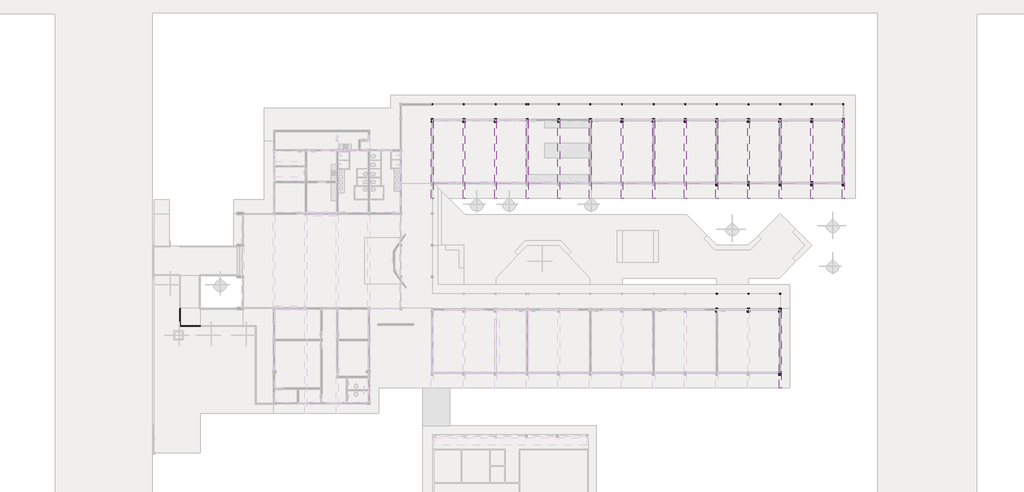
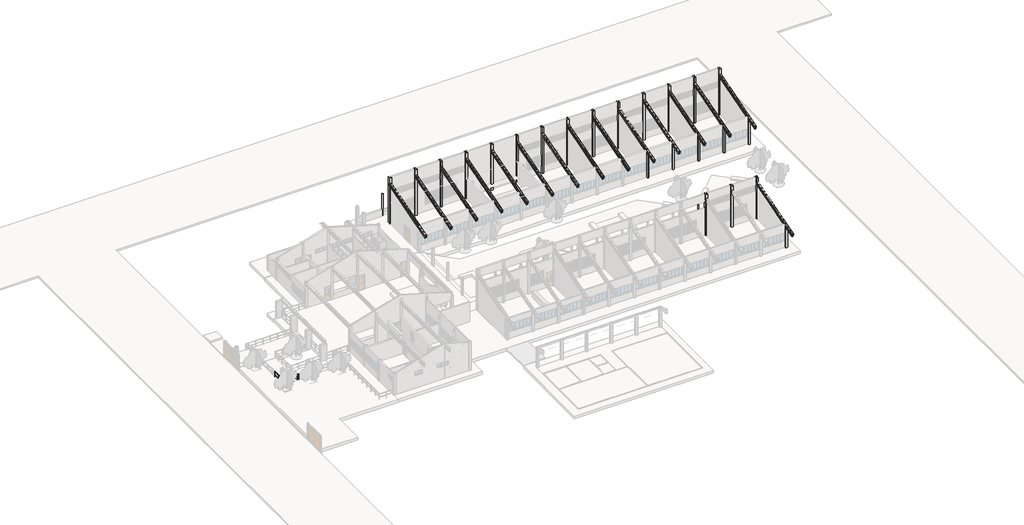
# One storey, part 7 of 12: 41 columns, 15 beams, 1 railing.
"""IFC4 building model written with IfcOpenShell, lengths in millimetres."""

from ifc_helpers import new_model, si_unit, point, frame, frame_2d, origin, origin_with_axes, place, context, project, spatial, polyline, circle_curve, ellipse_curve, trimmed, segment, composite_curve, outline, extrude, transform, mapped, element, save
from ifc_brep_helpers import plane_surface, cylinder_surface, advanced_brep
from components import beam_20x40_c263b07b, pilar_retangular_25_x_40_cm_2_ca77a530, pilar_retangular_25_x_40_cm_2_9367b00e, pilar_retangular_40_x_20_cm_dd6b6704

model = new_model("IFC4")

# Units and contexts
model_context = context("Model", 3, world=origin())
ifc_project = project(units=[si_unit("LENGTHUNIT", "METRE", prefix="MILLI")], contexts=[model_context])

# Site, building, storey
site = spatial("IfcSite", under=ifc_project)
building = spatial("IfcBuilding", under=site)
storey = spatial("IfcBuildingStorey", under=building, Name="Nível 1", Elevation=0.0)

# Beams
placement = place(None, origin())
beam_20x40_shape = beam_20x40_c263b07b(model_context)
element("IfcBeam", 1, ObjectType="Viga Treliçada - Igor Ramos.0001 : 20x40", at=placement, inside=storey, context=model_context, shape_type="MappedRepresentation", body=[
    mapped(beam_20x40_shape, transform((48301.4731397, 32332.4454796, 4792.2928974), x_axis=(0.0, 0.9587418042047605, 0.28427830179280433), y_axis=(-1.0, 0.0, 0.0), z_axis=(0.0, -0.2842783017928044, 0.9587418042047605))),
])
element("IfcBeam", 2, ObjectType="Viga Treliçada - Igor Ramos.0001 : 20x40", at=placement, inside=storey, context=model_context, shape_type="MappedRepresentation", body=[
    mapped(beam_20x40_shape, transform((44801.4731397, 32332.4454796, 4792.2928974), x_axis=(0.0, 0.9587418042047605, 0.28427830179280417), y_axis=(-1.0, 0.0, 0.0), z_axis=(0.0, -0.2842783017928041, 0.9587418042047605))),
])
element("IfcBeam", 3, ObjectType="Viga Treliçada - Igor Ramos.0001 : 20x40", at=placement, inside=storey, context=model_context, shape_type="MappedRepresentation", body=[
    mapped(beam_20x40_shape, transform((41301.4731397, 32332.4454796, 4792.2928974), x_axis=(0.0, 0.9587418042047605, 0.2842783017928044), y_axis=(-1.0000000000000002, 0.0, 0.0), z_axis=(0.0, -0.28427830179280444, 0.9587418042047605))),
])
element("IfcBeam", 4, ObjectType="Viga Treliçada - Igor Ramos.0001 : 20x40", at=placement, inside=storey, context=model_context, shape_type="MappedRepresentation", body=[
    mapped(beam_20x40_shape, transform((37801.4731397, 32332.4454796, 4792.2928974), x_axis=(0.0, 0.9587418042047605, 0.2842783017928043), y_axis=(-1.0, 0.0, 0.0), z_axis=(0.0, -0.28427830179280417, 0.9587418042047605))),
])
element("IfcBeam", 5, ObjectType="Viga Treliçada - Igor Ramos.0001 : 20x40", at=placement, inside=storey, context=model_context, shape_type="MappedRepresentation", body=[
    mapped(beam_20x40_shape, transform((34301.4731397, 32332.4454796, 4792.2928974), x_axis=(0.0, 0.9587418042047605, 0.2842783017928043), y_axis=(-1.0, 0.0, 0.0), z_axis=(0.0, -0.28427830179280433, 0.9587418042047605))),
])
element("IfcBeam", 6, ObjectType="Viga Treliçada - Igor Ramos.0001 : 20x40", at=placement, inside=storey, context=model_context, shape_type="MappedRepresentation", body=[
    mapped(beam_20x40_shape, transform((30801.4731397, 32332.4454796, 4792.2928974), x_axis=(0.0, 0.9587418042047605, 0.2842783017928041), y_axis=(-1.0, 0.0, 0.0), z_axis=(0.0, -0.28427830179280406, 0.9587418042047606))),
])
element("IfcBeam", 7, ObjectType="Viga Treliçada - Igor Ramos.0001 : 20x40", at=placement, inside=storey, context=model_context, shape_type="MappedRepresentation", body=[
    mapped(beam_20x40_shape, transform((27301.4731397, 32332.4454796, 4792.2928974), x_axis=(0.0, 0.9587418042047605, 0.28427830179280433), y_axis=(-1.0, 0.0, 0.0), z_axis=(0.0, -0.2842783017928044, 0.9587418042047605))),
])
element("IfcBeam", 8, ObjectType="Viga Treliçada - Igor Ramos.0001 : 20x40", at=placement, inside=storey, context=model_context, shape_type="MappedRepresentation", body=[
    mapped(beam_20x40_shape, transform((23801.4731397, 32332.4454796, 4792.2928974), x_axis=(0.0, 0.9587418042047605, 0.2842783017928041), y_axis=(-1.0, 0.0, 0.0), z_axis=(0.0, -0.28427830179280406, 0.9587418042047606))),
])
element("IfcBeam", 9, ObjectType="Viga Treliçada - Igor Ramos.0001 : 20x40", at=placement, inside=storey, context=model_context, shape_type="MappedRepresentation", body=[
    mapped(beam_20x40_shape, transform((20301.4731397, 32332.4454796, 4792.2928974), x_axis=(0.0, 0.9587418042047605, 0.28427830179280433), y_axis=(-1.0, 0.0, 0.0), z_axis=(0.0, -0.2842783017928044, 0.9587418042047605))),
])
element("IfcBeam", 10, ObjectType="Viga Treliçada - Igor Ramos.0001 : 20x40", at=placement, inside=storey, context=model_context, shape_type="MappedRepresentation", body=[
    mapped(beam_20x40_shape, transform((16801.4731397, 32332.4454796, 4792.2928974), x_axis=(0.0, 0.9587418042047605, 0.2842783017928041), y_axis=(-1.0, 0.0, 0.0), z_axis=(0.0, -0.28427830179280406, 0.9587418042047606))),
])
element("IfcBeam", 11, ObjectType="Viga Treliçada - Igor Ramos.0001 : 20x40", at=placement, inside=storey, context=model_context, shape_type="MappedRepresentation", body=[
    mapped(beam_20x40_shape, transform((13301.4731397, 32332.4454796, 4792.2928974), x_axis=(0.0, 0.9587418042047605, 0.28427830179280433), y_axis=(-1.0, 0.0, 0.0), z_axis=(0.0, -0.2842783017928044, 0.9587418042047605))),
])
element("IfcBeam", 12, ObjectType="Viga Treliçada - Igor Ramos.0001 : 20x40", at=placement, inside=storey, context=model_context, shape_type="MappedRepresentation", body=[
    mapped(beam_20x40_shape, transform((9801.4731397, 32332.4454796, 4792.2928974), x_axis=(0.0, 0.9587418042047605, 0.2842783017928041), y_axis=(-1.0, 0.0, 0.0), z_axis=(0.0, -0.28427830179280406, 0.9587418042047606))),
])
element("IfcBeam", 13, ObjectType="Viga Treliçada - Igor Ramos.0001 : 20x40", at=placement, inside=storey, context=model_context, shape_type="MappedRepresentation", body=[
    mapped(beam_20x40_shape, transform((6301.4731397, 32332.4454796, 4792.2928974), x_axis=(0.0, 0.9587418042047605, 0.28427830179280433), y_axis=(-1.0, 0.0, 0.0), z_axis=(0.0, -0.2842783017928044, 0.9587418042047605))),
])
element("IfcBeam", 14, ObjectType="Viga Treliçada - Igor Ramos.0001 : 20x40", at=placement, inside=storey, context=model_context, shape_type="MappedRepresentation", body=[
    mapped(beam_20x40_shape, transform((2801.4731397, 32332.4454796, 4792.2928974), x_axis=(0.0, 0.9587418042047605, 0.2842783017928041), y_axis=(-1.0, 0.0, 0.0), z_axis=(0.0, -0.28427830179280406, 0.9587418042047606))),
])
element("IfcBeam", 15, ObjectType="Viga Treliçada - Igor Ramos.0001 : 20x40", at=placement, inside=storey, context=model_context, shape_type="MappedRepresentation", body=[
    mapped(beam_20x40_shape, transform((41301.4731397, 11323.066338, 4262.2928974), x_axis=(0.0, 0.9587418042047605, 0.2842783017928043), y_axis=(-1.0, 0.0, 0.0), z_axis=(0.0, -0.2842783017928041, 0.9587418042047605))),
])

# Columns
element("IfcColumn", 16, ObjectType="Concrete-Round-Column : Pilar concreto cilíndrico", at=placement, inside=storey, context=model_context, shape_type="SweptSolid", body=[
    extrude(outline(composite_curve([segment(trimmed(circle_curve(frame_2d((2801.5285525, 38431.1797638)), 75.0), [point((2726.5285525, 38431.1797638))], [point((2876.5285525, 38431.1797638))], False, "CARTESIAN"), True, "CONTINUOUS"), segment(trimmed(circle_curve(frame_2d((2801.5285525, 38431.1797638)), 75.0), [point((2876.5285525, 38431.1797638))], [point((2726.5285525, 38431.1797638))], False, "CARTESIAN"), True, "CONTINUOUS")], self_intersect=False)), origin_with_axes(), (0.0, 0.0, 1.0), 3464.8789914),
])
element("IfcColumn", 17, ObjectType="Concrete-Round-Column : Pilar concreto cilíndrico", at=placement, inside=storey, context=model_context, shape_type="SweptSolid", body=[
    extrude(outline(composite_curve([segment(trimmed(circle_curve(frame_2d((6301.5285525, 38431.1797638)), 75.0), [point((6226.5285525, 38431.1797638))], [point((6376.5285525, 38431.1797638))], False, "CARTESIAN"), True, "CONTINUOUS"), segment(trimmed(circle_curve(frame_2d((6301.5285525, 38431.1797638)), 75.0), [point((6376.5285525, 38431.1797638))], [point((6226.5285525, 38431.1797638))], False, "CARTESIAN"), True, "CONTINUOUS")], self_intersect=False)), origin_with_axes(), (0.0, 0.0, 1.0), 3464.8789914),
])
element("IfcColumn", 18, ObjectType="Concrete-Round-Column : Pilar concreto cilíndrico", at=placement, inside=storey, context=model_context, shape_type="SweptSolid", body=[
    extrude(outline(composite_curve([segment(trimmed(circle_curve(frame_2d((9801.5285525, 38431.1797638)), 75.0), [point((9726.5285525, 38431.1797638))], [point((9876.5285525, 38431.1797638))], False, "CARTESIAN"), True, "CONTINUOUS"), segment(trimmed(circle_curve(frame_2d((9801.5285525, 38431.1797638)), 75.0), [point((9876.5285525, 38431.1797638))], [point((9726.5285525, 38431.1797638))], False, "CARTESIAN"), True, "CONTINUOUS")], self_intersect=False)), origin_with_axes(), (0.0, 0.0, 1.0), 3464.8789914),
])
element("IfcColumn", 19, ObjectType="Concrete-Round-Column : Pilar concreto cilíndrico", at=placement, inside=storey, context=model_context, shape_type="SweptSolid", body=[
    extrude(outline(composite_curve([segment(trimmed(circle_curve(frame_2d((13186.5285525, 38431.1797638)), 75.0), [point((13111.5285525, 38431.1797638))], [point((13261.5285525, 38431.1797638))], False, "CARTESIAN"), True, "CONTINUOUS"), segment(trimmed(circle_curve(frame_2d((13186.5285525, 38431.1797638)), 75.0), [point((13261.5285525, 38431.1797638))], [point((13111.5285525, 38431.1797638))], False, "CARTESIAN"), True, "CONTINUOUS")], self_intersect=False)), origin_with_axes(), (0.0, 0.0, 1.0), 3464.8789914),
])
element("IfcColumn", 20, ObjectType="Concrete-Round-Column : Pilar concreto cilíndrico", at=placement, inside=storey, context=model_context, shape_type="SweptSolid", body=[
    extrude(outline(composite_curve([segment(trimmed(circle_curve(frame_2d((13421.5285525, 38431.1797638)), 75.0), [point((13346.5285525, 38431.1797638))], [point((13496.5285525, 38431.1797638))], False, "CARTESIAN"), True, "CONTINUOUS"), segment(trimmed(circle_curve(frame_2d((13421.5285525, 38431.1797638)), 75.0), [point((13496.5285525, 38431.1797638))], [point((13346.5285525, 38431.1797638))], False, "CARTESIAN"), True, "CONTINUOUS")], self_intersect=False)), origin_with_axes(), (0.0, 0.0, 1.0), 3464.8789914),
])
element("IfcColumn", 21, ObjectType="Concrete-Round-Column : Pilar concreto cilíndrico", at=placement, inside=storey, context=model_context, shape_type="SweptSolid", body=[
    extrude(outline(composite_curve([segment(trimmed(circle_curve(frame_2d((16801.5285525, 38431.1797638)), 75.0), [point((16726.5285525, 38431.1797638))], [point((16876.5285525, 38431.1797638))], False, "CARTESIAN"), True, "CONTINUOUS"), segment(trimmed(circle_curve(frame_2d((16801.5285525, 38431.1797638)), 75.0), [point((16876.5285525, 38431.1797638))], [point((16726.5285525, 38431.1797638))], False, "CARTESIAN"), True, "CONTINUOUS")], self_intersect=False)), origin_with_axes(), (0.0, 0.0, 1.0), 3464.8789914),
])
element("IfcColumn", 22, ObjectType="Concrete-Round-Column : Pilar concreto cilíndrico", at=placement, inside=storey, context=model_context, shape_type="SweptSolid", body=[
    extrude(outline(composite_curve([segment(trimmed(circle_curve(frame_2d((20301.4731397, 38431.1797638)), 75.0), [point((20226.4731397, 38431.1797638))], [point((20376.4731397, 38431.1797638))], False, "CARTESIAN"), True, "CONTINUOUS"), segment(trimmed(circle_curve(frame_2d((20301.4731397, 38431.1797638)), 75.0), [point((20376.4731397, 38431.1797638))], [point((20226.4731397, 38431.1797638))], False, "CARTESIAN"), True, "CONTINUOUS")], self_intersect=False)), origin_with_axes(), (0.0, 0.0, 1.0), 3464.8789914),
])
element("IfcColumn", 23, ObjectType="Concrete-Round-Column : Pilar concreto cilíndrico", at=placement, inside=storey, context=model_context, shape_type="SweptSolid", body=[
    extrude(outline(composite_curve([segment(trimmed(circle_curve(frame_2d((23801.4731397, 38431.1797638)), 75.0), [point((23726.4731397, 38431.1797638))], [point((23876.4731397, 38431.1797638))], False, "CARTESIAN"), True, "CONTINUOUS"), segment(trimmed(circle_curve(frame_2d((23801.4731397, 38431.1797638)), 75.0), [point((23876.4731397, 38431.1797638))], [point((23726.4731397, 38431.1797638))], False, "CARTESIAN"), True, "CONTINUOUS")], self_intersect=False)), origin_with_axes(), (0.0, 0.0, 1.0), 3464.8789914),
])
element("IfcColumn", 24, ObjectType="Concrete-Round-Column : Pilar concreto cilíndrico", at=placement, inside=storey, context=model_context, shape_type="SweptSolid", body=[
    extrude(outline(composite_curve([segment(trimmed(circle_curve(frame_2d((27301.5285525, 38431.1797638)), 75.0), [point((27226.5285525, 38431.1797638))], [point((27376.5285525, 38431.1797638))], False, "CARTESIAN"), True, "CONTINUOUS"), segment(trimmed(circle_curve(frame_2d((27301.5285525, 38431.1797638)), 75.0), [point((27376.5285525, 38431.1797638))], [point((27226.5285525, 38431.1797638))], False, "CARTESIAN"), True, "CONTINUOUS")], self_intersect=False)), origin_with_axes(), (0.0, 0.0, 1.0), 3464.8789914),
])
element("IfcColumn", 25, ObjectType="Concrete-Round-Column : Pilar concreto cilíndrico", at=placement, inside=storey, context=model_context, shape_type="SweptSolid", body=[
    extrude(outline(composite_curve([segment(trimmed(circle_curve(frame_2d((30801.5285525, 38431.1797638)), 75.0), [point((30726.5285525, 38431.1797638))], [point((30876.5285525, 38431.1797638))], False, "CARTESIAN"), True, "CONTINUOUS"), segment(trimmed(circle_curve(frame_2d((30801.5285525, 38431.1797638)), 75.0), [point((30876.5285525, 38431.1797638))], [point((30726.5285525, 38431.1797638))], False, "CARTESIAN"), True, "CONTINUOUS")], self_intersect=False)), origin_with_axes(), (0.0, 0.0, 1.0), 3464.8789914),
])
element("IfcColumn", 26, ObjectType="Concrete-Round-Column : Pilar concreto cilíndrico", at=placement, inside=storey, context=model_context, shape_type="SweptSolid", body=[
    extrude(outline(composite_curve([segment(trimmed(circle_curve(frame_2d((34301.5285525, 38431.1797638)), 75.0), [point((34226.5285525, 38431.1797638))], [point((34376.5285525, 38431.1797638))], False, "CARTESIAN"), True, "CONTINUOUS"), segment(trimmed(circle_curve(frame_2d((34301.5285525, 38431.1797638)), 75.0), [point((34376.5285525, 38431.1797638))], [point((34226.5285525, 38431.1797638))], False, "CARTESIAN"), True, "CONTINUOUS")], self_intersect=False)), origin_with_axes(), (0.0, 0.0, 1.0), 3464.8789914),
])
element("IfcColumn", 27, ObjectType="Concrete-Round-Column : Pilar concreto cilíndrico", at=placement, inside=storey, context=model_context, shape_type="SweptSolid", body=[
    extrude(outline(composite_curve([segment(trimmed(circle_curve(frame_2d((37801.5285525, 38431.1797638)), 75.0), [point((37726.5285525, 38431.1797638))], [point((37876.5285525, 38431.1797638))], False, "CARTESIAN"), True, "CONTINUOUS"), segment(trimmed(circle_curve(frame_2d((37801.5285525, 38431.1797638)), 75.0), [point((37876.5285525, 38431.1797638))], [point((37726.5285525, 38431.1797638))], False, "CARTESIAN"), True, "CONTINUOUS")], self_intersect=False)), origin_with_axes(), (0.0, 0.0, 1.0), 3464.8789914),
])
element("IfcColumn", 28, ObjectType="Concrete-Round-Column : Pilar concreto cilíndrico", at=placement, inside=storey, context=model_context, shape_type="SweptSolid", body=[
    extrude(outline(composite_curve([segment(trimmed(circle_curve(frame_2d((41301.5285525, 38431.1797638)), 75.0), [point((41226.5285525, 38431.1797638))], [point((41376.5285525, 38431.1797638))], False, "CARTESIAN"), True, "CONTINUOUS"), segment(trimmed(circle_curve(frame_2d((41301.5285525, 38431.1797638)), 75.0), [point((41376.5285525, 38431.1797638))], [point((41226.5285525, 38431.1797638))], False, "CARTESIAN"), True, "CONTINUOUS")], self_intersect=False)), origin_with_axes(), (0.0, 0.0, 1.0), 3464.8789914),
])
element("IfcColumn", 29, ObjectType="Concrete-Round-Column : Pilar concreto cilíndrico", at=placement, inside=storey, context=model_context, shape_type="SweptSolid", body=[
    extrude(outline(composite_curve([segment(trimmed(circle_curve(frame_2d((44801.5285525, 38431.1797638)), 75.0), [point((44726.5285525, 38431.1797638))], [point((44876.5285525, 38431.1797638))], False, "CARTESIAN"), True, "CONTINUOUS"), segment(trimmed(circle_curve(frame_2d((44801.5285525, 38431.1797638)), 75.0), [point((44876.5285525, 38431.1797638))], [point((44726.5285525, 38431.1797638))], False, "CARTESIAN"), True, "CONTINUOUS")], self_intersect=False)), origin_with_axes(), (0.0, 0.0, 1.0), 3464.8789914),
])
element("IfcColumn", 30, ObjectType="Concrete-Round-Column : Pilar concreto cilíndrico", at=placement, inside=storey, context=model_context, shape_type="SweptSolid", body=[
    extrude(outline(composite_curve([segment(trimmed(circle_curve(frame_2d((48301.4731397, 38431.1797638)), 75.0), [point((48301.4731397, 38356.1797638))], [point((48301.4731397, 38506.1797638))], False, "CARTESIAN"), True, "CONTINUOUS"), segment(trimmed(circle_curve(frame_2d((48301.4731397, 38431.1797638)), 75.0), [point((48301.4731397, 38506.1797638))], [point((48301.4731397, 38356.1797638))], False, "CARTESIAN"), True, "CONTINUOUS")], self_intersect=False)), origin_with_axes(), (0.0, 0.0, 1.0), 3464.9159683),
])
element("IfcColumn", 31, ObjectType="Concrete-Round-Column : Pilar concreto cilíndrico", at=placement, inside=storey, context=model_context, shape_type="SweptSolid", body=[
    extrude(outline(composite_curve([segment(trimmed(circle_curve(frame_2d((41301.5285525, 17442.0058221)), 75.0), [point((41226.5285525, 17442.0058221))], [point((41376.5285525, 17442.0058221))], False, "CARTESIAN"), True, "CONTINUOUS"), segment(trimmed(circle_curve(frame_2d((41301.5285525, 17442.0058221)), 75.0), [point((41376.5285525, 17442.0058221))], [point((41226.5285525, 17442.0058221))], False, "CARTESIAN"), True, "CONTINUOUS")], self_intersect=False)), origin_with_axes(), (0.0, 0.0, 1.0), 3887.3),
])
element("IfcColumn", 32, ObjectType="Concrete-Round-Column : Pilar concreto cilíndrico", at=placement, inside=storey, context=model_context, shape_type="SweptSolid", body=[
    extrude(outline(composite_curve([segment(trimmed(circle_curve(frame_2d((37801.4731397, 17442.0058221)), 75.0), [point((37726.4731397, 17442.0058221))], [point((37876.4731397, 17442.0058221))], False, "CARTESIAN"), True, "CONTINUOUS"), segment(trimmed(circle_curve(frame_2d((37801.4731397, 17442.0058221)), 75.0), [point((37876.4731397, 17442.0058221))], [point((37726.4731397, 17442.0058221))], False, "CARTESIAN"), True, "CONTINUOUS")], self_intersect=False)), origin_with_axes(), (0.0, 0.0, 1.0), 3887.2541277),
])
element("IfcColumn", 33, ObjectType="Concrete-Round-Column : Pilar concreto cilíndrico", at=placement, inside=storey, context=model_context, shape_type="SweptSolid", body=[
    extrude(outline(composite_curve([segment(trimmed(circle_curve(frame_2d((34301.4731397, 17442.0058221)), 75.0), [point((34226.4731397, 17442.0058221))], [point((34376.4731397, 17442.0058221))], False, "CARTESIAN"), True, "CONTINUOUS"), segment(trimmed(circle_curve(frame_2d((34301.4731397, 17442.0058221)), 75.0), [point((34376.4731397, 17442.0058221))], [point((34226.4731397, 17442.0058221))], False, "CARTESIAN"), True, "CONTINUOUS")], self_intersect=False)), origin_with_axes(), (0.0, 0.0, 1.0), 3887.3),
])
element("IfcColumn", 34, ObjectType="Pilar retangular : 25 x 40 cm 2", at=placement, inside=storey, context=model_context, shape_type="SweptSolid", body=[
    extrude(outline(polyline([(41426.4731397, 8830.7093313), (41426.4731397, 8430.7093313), (41176.4731397, 8430.7093313), (41176.4731397, 8830.7093313), (41426.4731397, 8830.7093313)])), origin_with_axes(), (0.0, 0.0, 1.0), 3340.0),
])
pilar_retangular_25_x_40_cm_2_shape = pilar_retangular_25_x_40_cm_2_ca77a530(model_context)
element("IfcColumn", 35, ObjectType="Pilar retangular : 25 x 40 cm 2", at=placement, inside=storey, context=model_context, shape_type="MappedRepresentation", body=[
    mapped(pilar_retangular_25_x_40_cm_2_shape, transform((34301.4731397, 15621.8006221, 0.0), x_axis=(1.0, 0.0, 0.0), y_axis=(0.0, 1.0, 0.0), z_axis=(0.0, 0.0, 1.0))),
])
element("IfcColumn", 36, ObjectType="Pilar retangular : 25 x 40 cm 2", at=placement, inside=storey, context=model_context, shape_type="MappedRepresentation", body=[
    mapped(pilar_retangular_25_x_40_cm_2_shape, transform((37801.4731397, 15621.8006221, 0.0), x_axis=(1.0, 0.0, 0.0), y_axis=(0.0, 1.0, 0.0), z_axis=(0.0, 0.0, 1.0))),
])
element("IfcColumn", 37, ObjectType="Pilar retangular : 25 x 40 cm 2", at=placement, inside=storey, context=model_context, shape_type="MappedRepresentation", body=[
    mapped(pilar_retangular_25_x_40_cm_2_shape, transform((41301.4731397, 15621.8006221, 0.0), x_axis=(1.0, 0.0, 0.0), y_axis=(0.0, 1.0, 0.0), z_axis=(0.0, 0.0, 1.0))),
])
pilar_retangular_25_x_40_cm_2_2_shape = pilar_retangular_25_x_40_cm_2_9367b00e(model_context)
element("IfcColumn", 38, ObjectType="Pilar retangular : 25 x 40 cm 2", at=placement, inside=storey, context=model_context, shape_type="MappedRepresentation", body=[
    mapped(pilar_retangular_25_x_40_cm_2_2_shape, transform((2801.4731397, 36631.1797638, 0.0), x_axis=(1.0, 0.0, 0.0), y_axis=(0.0, 1.0, 0.0), z_axis=(0.0, 0.0, 1.0))),
])
element("IfcColumn", 39, ObjectType="Pilar retangular : 25 x 40 cm 2", at=placement, inside=storey, context=model_context, shape_type="MappedRepresentation", body=[
    mapped(pilar_retangular_25_x_40_cm_2_2_shape, transform((6301.4731397, 36631.1797638, 0.0), x_axis=(1.0, 0.0, 0.0), y_axis=(0.0, 1.0, 0.0), z_axis=(0.0, 0.0, 1.0))),
])
element("IfcColumn", 40, ObjectType="Pilar retangular : 25 x 40 cm 2", at=placement, inside=storey, context=model_context, shape_type="MappedRepresentation", body=[
    mapped(pilar_retangular_25_x_40_cm_2_2_shape, transform((9801.4731397, 36631.1797638, 0.0), x_axis=(1.0, 0.0, 0.0), y_axis=(0.0, 1.0, 0.0), z_axis=(0.0, 0.0, 1.0))),
])
element("IfcColumn", 41, ObjectType="Pilar retangular : 25 x 40 cm 2", at=placement, inside=storey, context=model_context, shape_type="MappedRepresentation", body=[
    mapped(pilar_retangular_25_x_40_cm_2_2_shape, transform((13301.4731397, 36631.1797638, 0.0), x_axis=(1.0, 0.0, 0.0), y_axis=(0.0, 1.0, 0.0), z_axis=(0.0, 0.0, 1.0))),
])
element("IfcColumn", 42, ObjectType="Pilar retangular : 25 x 40 cm 2", at=placement, inside=storey, context=model_context, shape_type="MappedRepresentation", body=[
    mapped(pilar_retangular_25_x_40_cm_2_2_shape, transform((16801.4731397, 36631.1797638, 0.0), x_axis=(1.0, 0.0, 0.0), y_axis=(0.0, 1.0, 0.0), z_axis=(0.0, 0.0, 1.0))),
])
element("IfcColumn", 43, ObjectType="Pilar retangular : 25 x 40 cm 2", at=placement, inside=storey, context=model_context, shape_type="MappedRepresentation", body=[
    mapped(pilar_retangular_25_x_40_cm_2_2_shape, transform((20301.4731397, 36631.1797638, 0.0), x_axis=(1.0, 0.0, 0.0), y_axis=(0.0, 1.0, 0.0), z_axis=(0.0, 0.0, 1.0))),
])
element("IfcColumn", 44, ObjectType="Pilar retangular : 25 x 40 cm 2", at=placement, inside=storey, context=model_context, shape_type="MappedRepresentation", body=[
    mapped(pilar_retangular_25_x_40_cm_2_2_shape, transform((23801.4731397, 36631.1797638, 0.0), x_axis=(1.0, 0.0, 0.0), y_axis=(0.0, 1.0, 0.0), z_axis=(0.0, 0.0, 1.0))),
])
element("IfcColumn", 45, ObjectType="Pilar retangular : 25 x 40 cm 2", at=placement, inside=storey, context=model_context, shape_type="MappedRepresentation", body=[
    mapped(pilar_retangular_25_x_40_cm_2_2_shape, transform((27301.4731397, 36631.1797638, 0.0), x_axis=(1.0, 0.0, 0.0), y_axis=(0.0, 1.0, 0.0), z_axis=(0.0, 0.0, 1.0))),
])
element("IfcColumn", 46, ObjectType="Pilar retangular : 25 x 40 cm 2", at=placement, inside=storey, context=model_context, shape_type="MappedRepresentation", body=[
    mapped(pilar_retangular_25_x_40_cm_2_2_shape, transform((30801.4731397, 36631.1797638, 0.0), x_axis=(1.0, 0.0, 0.0), y_axis=(0.0, 1.0, 0.0), z_axis=(0.0, 0.0, 1.0))),
])
element("IfcColumn", 47, ObjectType="Pilar retangular : 25 x 40 cm 2", at=placement, inside=storey, context=model_context, shape_type="MappedRepresentation", body=[
    mapped(pilar_retangular_25_x_40_cm_2_2_shape, transform((34301.4731397, 36631.1797638, 0.0), x_axis=(1.0, 0.0, 0.0), y_axis=(0.0, 1.0, 0.0), z_axis=(0.0, 0.0, 1.0))),
])
element("IfcColumn", 48, ObjectType="Pilar retangular : 25 x 40 cm 2", at=placement, inside=storey, context=model_context, shape_type="MappedRepresentation", body=[
    mapped(pilar_retangular_25_x_40_cm_2_2_shape, transform((37801.4731397, 36631.1797638, 0.0), x_axis=(1.0, 0.0, 0.0), y_axis=(0.0, 1.0, 0.0), z_axis=(0.0, 0.0, 1.0))),
])
element("IfcColumn", 49, ObjectType="Pilar retangular : 25 x 40 cm 2", at=placement, inside=storey, context=model_context, shape_type="MappedRepresentation", body=[
    mapped(pilar_retangular_25_x_40_cm_2_2_shape, transform((41301.4731397, 36631.1797638, 0.0), x_axis=(1.0, 0.0, 0.0), y_axis=(0.0, 1.0, 0.0), z_axis=(0.0, 0.0, 1.0))),
])
element("IfcColumn", 50, ObjectType="Pilar retangular : 25 x 40 cm 2", at=placement, inside=storey, context=model_context, shape_type="MappedRepresentation", body=[
    mapped(pilar_retangular_25_x_40_cm_2_2_shape, transform((44801.4731397, 36631.1797638, 0.0), x_axis=(1.0, 0.0, 0.0), y_axis=(0.0, 1.0, 0.0), z_axis=(0.0, 0.0, 1.0))),
])
element("IfcColumn", 51, ObjectType="Pilar retangular : 25 x 40 cm 2", at=placement, inside=storey, context=model_context, shape_type="MappedRepresentation", body=[
    mapped(pilar_retangular_25_x_40_cm_2_2_shape, transform((48301.4731397, 36631.1797638, 0.0), x_axis=(1.0, 0.0, 0.0), y_axis=(0.0, 1.0, 0.0), z_axis=(0.0, 0.0, 1.0))),
])
element("IfcColumn", 52, ObjectType="Pilar retangular : 40 x 20 cm", at=placement, inside=storey, context=model_context, shape_type="SweptSolid", body=[
    extrude(outline(polyline([(48401.4731397, 29431.1797638), (48201.4731397, 29431.1797638), (48201.4731397, 29831.1797638), (48401.4731397, 29831.1797638), (48401.4731397, 29431.1797638)])), origin_with_axes(), (0.0, 0.0, 1.0), 3723.4265078),
])
pilar_retangular_40_x_20_cm_shape = pilar_retangular_40_x_20_cm_dd6b6704(model_context)
element("IfcColumn", 53, ObjectType="Pilar retangular : 40 x 20 cm", at=placement, inside=storey, context=model_context, shape_type="MappedRepresentation", body=[
    mapped(pilar_retangular_40_x_20_cm_shape, transform((44801.4731397, 29631.1797638, 0.0), x_axis=(0.0, -1.0, 0.0), y_axis=(1.0, 0.0, 0.0), z_axis=(0.0, 0.0, 1.0))),
])
element("IfcColumn", 54, ObjectType="Pilar retangular : 40 x 20 cm", at=placement, inside=storey, context=model_context, shape_type="MappedRepresentation", body=[
    mapped(pilar_retangular_40_x_20_cm_shape, transform((41301.4731397, 29631.1797638, 0.0), x_axis=(0.0, -1.0, 0.0), y_axis=(1.0, 0.0, 0.0), z_axis=(0.0, 0.0, 1.0))),
])
element("IfcColumn", 55, ObjectType="Pilar retangular : 40 x 20 cm", at=placement, inside=storey, context=model_context, shape_type="MappedRepresentation", body=[
    mapped(pilar_retangular_40_x_20_cm_shape, transform((37801.4731397, 29631.1797638, 0.0), x_axis=(0.0, -1.0, 0.0), y_axis=(1.0, 0.0, 0.0), z_axis=(0.0, 0.0, 1.0))),
])
element("IfcColumn", 56, ObjectType="Pilar retangular : 40 x 20 cm", at=placement, inside=storey, context=model_context, shape_type="MappedRepresentation", body=[
    mapped(pilar_retangular_40_x_20_cm_shape, transform((34301.4731397, 29631.1797638, 0.0), x_axis=(0.0, -1.0, 0.0), y_axis=(1.0, 0.0, 0.0), z_axis=(0.0, 0.0, 1.0))),
])

# Railing
element("IfcRailing", 57, ObjectType="900 mm Tubulação", at=placement, inside=storey, context=model_context, shape_type="SolidModel", body=[
    advanced_brep(
    [(-25118.5268603, 15831.1862478, 1030.0), (-25148.5268603, 15831.1862478, 1030.0), (-25178.5268603, 15831.1862478, 1030.0), (-25158.5268603, 15831.1862478, 1050.0), (-25138.5268603, 15831.1862478, 1050.0), (-25118.5268603, 13911.1797638, 1030.0), (-25148.5268603, 13881.1797638, 1030.0), (-25178.5268603, 13851.1797638, 1030.0), (-25158.5268603, 13871.1797638, 1050.0), (-25138.5268603, 13891.1797638, 1050.0), (-22898.5268603, 13911.1797638, 1030.0), (-22898.5268603, 13891.1797638, 1050.0), (-22898.5268603, 13871.1797638, 1050.0), (-22898.5268603, 13851.1797638, 1030.0), (-22898.5268603, 13881.1797638, 1030.0)],
    [
        (0, 1),
        (1, 2),
        (2, 3, circle_curve(frame((-25158.5268603, 15831.1862478, 1030.0), z_axis=(0.0, 1.0, 0.0), x_axis=(1.0, 0.0, 0.0)), 20.0)),
        (3, 4),
        (4, 0, circle_curve(frame((-25138.5268603, 15831.1862478, 1030.0), z_axis=(0.0, 1.0, 0.0), x_axis=(1.0, 0.0, 0.0)), 20.0)),
        (0, 5),
        (5, 6),
        (6, 1),
        (6, 7),
        (7, 2),
        (7, 8, ellipse_curve(frame((-25158.5268603, 13871.1797638, 1030.0), z_axis=(-0.7071067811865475, 0.7071067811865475, 0.0), x_axis=(0.7071067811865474, 0.7071067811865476, 0.0)), 28.2842712, 20.0)),
        (8, 3),
        (8, 9),
        (9, 4),
        (9, 5, ellipse_curve(frame((-25138.5268603, 13891.1797638, 1030.0), z_axis=(-0.7071067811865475, 0.7071067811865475, 0.0), x_axis=(0.7071067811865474, 0.7071067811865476, 0.0)), 28.2842712, 20.0)),
        (10, 11, circle_curve(frame((-22898.5268603, 13891.1797638, 1030.0), z_axis=(1.0, 0.0, 0.0), x_axis=(0.0, 1.0, 0.0)), 20.0)),
        (11, 12),
        (12, 13, circle_curve(frame((-22898.5268603, 13871.1797638, 1030.0), z_axis=(1.0, 0.0, 0.0), x_axis=(0.0, 1.0, 0.0)), 20.0)),
        (13, 14),
        (14, 10),
        (5, 10),
        (14, 6),
        (13, 7),
        (12, 8),
        (11, 9),
    ],
    [
        plane_surface(frame((-25148.5268603, 15831.1862478, 1050.0), z_axis=(0.0, 1.0, 0.0), x_axis=(0.0, 0.0, -1.0))),
        plane_surface(frame((-25118.5268603, 15831.1862478, 1030.0), z_axis=(0.0, 0.0, -1.0), x_axis=(0.0, -1.0, 0.0))),
        plane_surface(frame((-25148.5268603, 15831.1862478, 1030.0), z_axis=(0.0, 0.0, -1.0), x_axis=(0.0, -1.0, 0.0))),
        cylinder_surface(frame((-25158.5268603, 15831.1862478, 1030.0), z_axis=(0.0, 1.0, 0.0), x_axis=(1.0, 0.0, 0.0)), 20.0),
        plane_surface(frame((-25158.5268603, 15831.1862478, 1050.0), z_axis=(0.0, 0.0, 1.0), x_axis=(0.0, -1.0, 0.0))),
        cylinder_surface(frame((-25138.5268603, 15831.1862478, 1030.0), z_axis=(0.0, 1.0, 0.0), x_axis=(1.0, 0.0, 0.0)), 20.0),
        plane_surface(frame((-22898.5268603, 13881.1797638, 1050.0), z_axis=(1.0, 0.0, 0.0), x_axis=(0.0, 1.0, 0.0))),
        plane_surface(frame((-25118.5268603, 13911.1797638, 1030.0), z_axis=(0.0, 0.0, -1.0), x_axis=(1.0, 0.0, 0.0))),
        plane_surface(frame((-25148.5268603, 13881.1797638, 1030.0), z_axis=(0.0, 0.0, -1.0), x_axis=(1.0, 0.0, 0.0))),
        cylinder_surface(frame((-25148.5268603, 13871.1797638, 1030.0), z_axis=(-1.0, 0.0, 0.0), x_axis=(0.0, 1.0, 0.0)), 20.0),
        plane_surface(frame((-25158.5268603, 13871.1797638, 1050.0), z_axis=(0.0, 0.0, 1.0), x_axis=(1.0, 0.0, 0.0))),
        cylinder_surface(frame((-25148.5268603, 13891.1797638, 1030.0), z_axis=(-1.0, 0.0, 0.0), x_axis=(0.0, 1.0, 0.0)), 20.0),
    ],
    [
        (0, [[1, 2, 3, 4, 5]]),
        (1, [[-1, 6, 7, 8]]),
        (2, [[-2, -8, 9, 10]]),
        (3, [[-3, -10, 11, 12]]),
        (4, [[-4, -12, 13, 14]]),
        (5, [[-5, -14, 15, -6]]),
        (6, [[16, 17, 18, 19, 20]]),
        (7, [[-7, 21, -20, 22]]),
        (8, [[-9, -22, -19, 23]]),
        (9, [[-11, -23, -18, 24]]),
        (10, [[-13, -24, -17, 25]]),
        (11, [[-15, -25, -16, -21]]),
    ],
),
    extrude(outline(composite_curve([segment(trimmed(circle_curve(frame_2d((1035.0, -25148.5268603)), 15.0), [point((1035.0, -25133.5268603))], [point((1035.0, -25163.5268603))], False, "CARTESIAN"), True, "CONTINUOUS"), segment(trimmed(circle_curve(frame_2d((1035.0, -25148.5268603)), 15.0), [point((1035.0, -25163.5268603))], [point((1035.0, -25133.5268603))], False, "CARTESIAN"), True, "CONTINUOUS")], self_intersect=False)), frame((0.0, 13896.1797638, 0.0), z_axis=(0.0, 1.0, 0.0), x_axis=(0.0, 0.0, 1.0)), (0.0, 0.0, 1.0), 1935.006484),
    extrude(outline(composite_curve([segment(trimmed(circle_curve(frame_2d((13881.1797638, 1035.0)), 15.0), [point((13896.1797638, 1035.0))], [point((13866.1797638, 1035.0))], False, "CARTESIAN"), True, "CONTINUOUS"), segment(trimmed(circle_curve(frame_2d((13881.1797638, 1035.0)), 15.0), [point((13866.1797638, 1035.0))], [point((13896.1797638, 1035.0))], False, "CARTESIAN"), True, "CONTINUOUS")], self_intersect=False)), frame((-25163.5268603, 0.0, 0.0), z_axis=(1.0, 0.0, 0.0), x_axis=(0.0, 1.0, 0.0)), (0.0, 0.0, 1.0), 2265.0),
    extrude(outline(composite_curve([segment(trimmed(circle_curve(frame_2d((585.0, -25148.5268603)), 15.0), [point((585.0, -25133.5268603))], [point((585.0, -25163.5268603))], False, "CARTESIAN"), True, "CONTINUOUS"), segment(trimmed(circle_curve(frame_2d((585.0, -25148.5268603)), 15.0), [point((585.0, -25163.5268603))], [point((585.0, -25133.5268603))], False, "CARTESIAN"), True, "CONTINUOUS")], self_intersect=False)), frame((0.0, 13896.1797638, 0.0), z_axis=(0.0, 1.0, 0.0), x_axis=(0.0, 0.0, 1.0)), (0.0, 0.0, 1.0), 1935.006484),
    extrude(outline(composite_curve([segment(trimmed(circle_curve(frame_2d((13881.1797638, 585.0)), 15.0), [point((13896.1797638, 585.0))], [point((13866.1797638, 585.0))], False, "CARTESIAN"), True, "CONTINUOUS"), segment(trimmed(circle_curve(frame_2d((13881.1797638, 585.0)), 15.0), [point((13866.1797638, 585.0))], [point((13896.1797638, 585.0))], False, "CARTESIAN"), True, "CONTINUOUS")], self_intersect=False)), frame((-25163.5268603, 0.0, 0.0), z_axis=(1.0, 0.0, 0.0), x_axis=(0.0, 1.0, 0.0)), (0.0, 0.0, 1.0), 2265.0),
    extrude(outline(composite_curve([segment(trimmed(circle_curve(frame_2d((-23098.5333443, 13881.1797638)), 12.5), [point((-23098.5333443, 13893.6797638))], [point((-23098.5333443, 13868.6797638))], False, "CARTESIAN"), True, "CONTINUOUS"), segment(trimmed(circle_curve(frame_2d((-23098.5333443, 13881.1797638)), 12.5), [point((-23098.5333443, 13868.6797638))], [point((-23098.5333443, 13893.6797638))], False, "CARTESIAN"), True, "CONTINUOUS")], self_intersect=False)), frame((0.0, 0.0, 150.0), z_axis=(0.0, 0.0, 1.0), x_axis=(1.0, 0.0, 0.0)), (0.0, 0.0, 1.0), 870.0),
    extrude(outline(composite_curve([segment(trimmed(circle_curve(frame_2d((-24098.5333443, 13881.1797638)), 12.5), [point((-24098.5333443, 13893.6797638))], [point((-24098.5333443, 13868.6797638))], False, "CARTESIAN"), True, "CONTINUOUS"), segment(trimmed(circle_curve(frame_2d((-24098.5333443, 13881.1797638)), 12.5), [point((-24098.5333443, 13868.6797638))], [point((-24098.5333443, 13893.6797638))], False, "CARTESIAN"), True, "CONTINUOUS")], self_intersect=False)), frame((0.0, 0.0, 150.0), z_axis=(0.0, 0.0, 1.0), x_axis=(1.0, 0.0, 0.0)), (0.0, 0.0, 1.0), 870.0),
    extrude(outline(composite_curve([segment(trimmed(circle_curve(frame_2d((-25098.5333443, 13881.1797638)), 12.5), [point((-25098.5333443, 13893.6797638))], [point((-25098.5333443, 13868.6797638))], False, "CARTESIAN"), True, "CONTINUOUS"), segment(trimmed(circle_curve(frame_2d((-25098.5333443, 13881.1797638)), 12.5), [point((-25098.5333443, 13868.6797638))], [point((-25098.5333443, 13893.6797638))], False, "CARTESIAN"), True, "CONTINUOUS")], self_intersect=False)), frame((0.0, 0.0, 150.0), z_axis=(0.0, 0.0, 1.0), x_axis=(1.0, 0.0, 0.0)), (0.0, 0.0, 1.0), 870.0),
    extrude(outline(composite_curve([segment(trimmed(circle_curve(frame_2d((-25148.5268603, 14831.1862478)), 12.5), [point((-25136.0268603, 14831.1862478))], [point((-25161.0268603, 14831.1862478))], False, "CARTESIAN"), True, "CONTINUOUS"), segment(trimmed(circle_curve(frame_2d((-25148.5268603, 14831.1862478)), 12.5), [point((-25161.0268603, 14831.1862478))], [point((-25136.0268603, 14831.1862478))], False, "CARTESIAN"), True, "CONTINUOUS")], self_intersect=False)), frame((0.0, 0.0, 150.0), z_axis=(0.0, 0.0, 1.0), x_axis=(1.0, 0.0, 0.0)), (0.0, 0.0, 1.0), 870.0),
    extrude(outline(composite_curve([segment(trimmed(circle_curve(frame_2d((-22911.0268603, 13881.1797638)), 12.5), [point((-22911.0268603, 13893.6797638))], [point((-22911.0268603, 13868.6797638))], False, "CARTESIAN"), True, "CONTINUOUS"), segment(trimmed(circle_curve(frame_2d((-22911.0268603, 13881.1797638)), 12.5), [point((-22911.0268603, 13868.6797638))], [point((-22911.0268603, 13893.6797638))], False, "CARTESIAN"), True, "CONTINUOUS")], self_intersect=False)), frame((0.0, 0.0, 150.0), z_axis=(0.0, 0.0, 1.0), x_axis=(1.0, 0.0, 0.0)), (0.0, 0.0, 1.0), 880.0),
    extrude(outline(composite_curve([segment(trimmed(circle_curve(frame_2d((-25148.5268603, 15818.6862478)), 12.5), [point((-25136.0268603, 15818.6862478))], [point((-25161.0268603, 15818.6862478))], False, "CARTESIAN"), True, "CONTINUOUS"), segment(trimmed(circle_curve(frame_2d((-25148.5268603, 15818.6862478)), 12.5), [point((-25161.0268603, 15818.6862478))], [point((-25136.0268603, 15818.6862478))], False, "CARTESIAN"), True, "CONTINUOUS")], self_intersect=False)), frame((0.0, 0.0, 150.0), z_axis=(0.0, 0.0, 1.0), x_axis=(1.0, 0.0, 0.0)), (0.0, 0.0, 1.0), 880.0),
])

save(model, "model.ifc")
